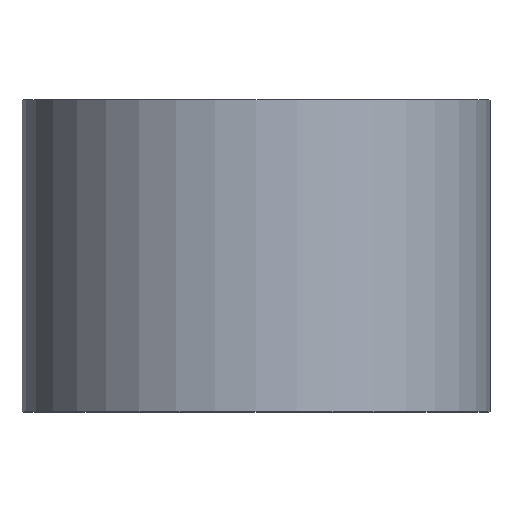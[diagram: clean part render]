
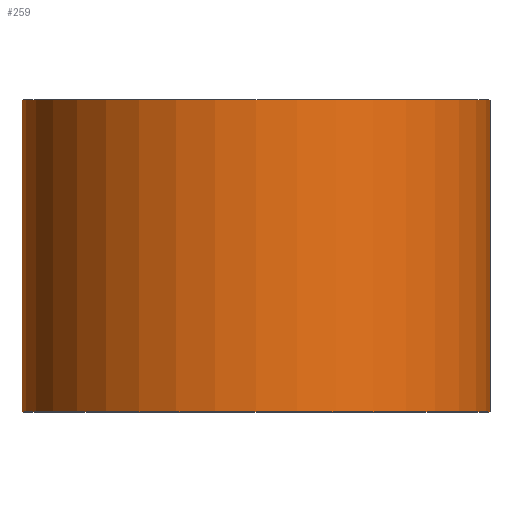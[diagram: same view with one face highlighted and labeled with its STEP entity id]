
A CAD part, top view. The second image highlights one B-rep face of the part: STEP entity #259.
In plain terms, the highlighted cylindrical face has radius 9 mm (diameter 18 mm), a partial arc.
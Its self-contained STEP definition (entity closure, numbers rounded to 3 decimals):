
#17 = CARTESIAN_POINT ( 'NONE',  ( 9., 12., 0. ) ) ;
#40 = DIRECTION ( 'NONE',  ( -1., 0., 0. ) ) ;
#49 = CIRCLE ( 'NONE', #261, 9. ) ;
#55 = LINE ( 'NONE', #91, #273 ) ;
#63 = VERTEX_POINT ( 'NONE', #17 ) ;
#73 = CARTESIAN_POINT ( 'NONE',  ( -9., 0., 0. ) ) ;
#75 = VECTOR ( 'NONE', #96, 1000. ) ;
#76 = EDGE_CURVE ( 'NONE', #154, #228, #198, .T. ) ;
#77 = DIRECTION ( 'NONE',  ( -1., 0., 0. ) ) ;
#82 = FACE_OUTER_BOUND ( 'NONE', #279, .T. ) ;
#88 = DIRECTION ( 'NONE',  ( -1., 0., 0. ) ) ;
#91 = CARTESIAN_POINT ( 'NONE',  ( 9., 0., 0. ) ) ;
#93 = DIRECTION ( 'NONE',  ( 0., 1., 0. ) ) ;
#96 = DIRECTION ( 'NONE',  ( 0., 1., 0. ) ) ;
#106 = ORIENTED_EDGE ( 'NONE', *, *, #76, .F. ) ;
#109 = DIRECTION ( 'NONE',  ( 0., 1., 0. ) ) ;
#118 = CIRCLE ( 'NONE', #144, 9. ) ;
#124 = EDGE_CURVE ( 'NONE', #245, #63, #55, .T. ) ;
#134 = CARTESIAN_POINT ( 'NONE',  ( 0., 0., 0. ) ) ;
#137 = DIRECTION ( 'NONE',  ( 0., 1., 0. ) ) ;
#140 = AXIS2_PLACEMENT_3D ( 'NONE', #134, #137, #40 ) ;
#144 = AXIS2_PLACEMENT_3D ( 'NONE', #215, #242, #77 ) ;
#146 = EDGE_CURVE ( 'NONE', #228, #63, #118, .T. ) ;
#154 = VERTEX_POINT ( 'NONE', #218 ) ;
#157 = CARTESIAN_POINT ( 'NONE',  ( 0., 0., 0. ) ) ;
#191 = ORIENTED_EDGE ( 'NONE', *, *, #225, .T. ) ;
#198 = LINE ( 'NONE', #73, #75 ) ;
#205 = CARTESIAN_POINT ( 'NONE',  ( -9., 12., 0. ) ) ;
#215 = CARTESIAN_POINT ( 'NONE',  ( 0., 12., 0. ) ) ;
#218 = CARTESIAN_POINT ( 'NONE',  ( -9., 0., 0. ) ) ;
#225 = EDGE_CURVE ( 'NONE', #154, #245, #49, .T. ) ;
#228 = VERTEX_POINT ( 'NONE', #205 ) ;
#242 = DIRECTION ( 'NONE',  ( 0., 1., 0. ) ) ;
#245 = VERTEX_POINT ( 'NONE', #251 ) ;
#251 = CARTESIAN_POINT ( 'NONE',  ( 9., 0., 0. ) ) ;
#259 = ADVANCED_FACE ( 'NONE', ( #82 ), #263, .T. ) ;
#261 = AXIS2_PLACEMENT_3D ( 'NONE', #157, #109, #88 ) ;
#263 = CYLINDRICAL_SURFACE ( 'NONE', #140, 9. ) ;
#273 = VECTOR ( 'NONE', #93, 1000. ) ;
#279 = EDGE_LOOP ( 'NONE', ( #191, #301, #282, #106 ) ) ;
#282 = ORIENTED_EDGE ( 'NONE', *, *, #146, .F. ) ;
#301 = ORIENTED_EDGE ( 'NONE', *, *, #124, .T. ) ;
